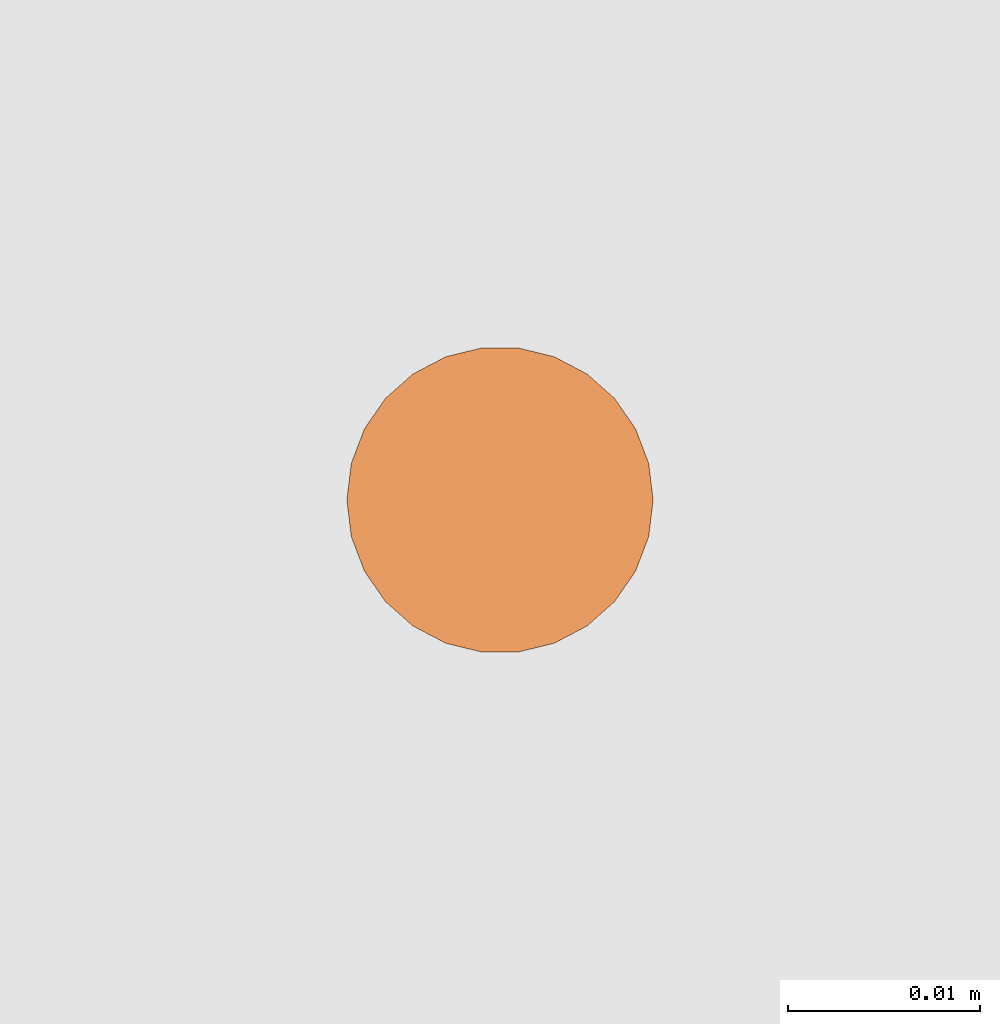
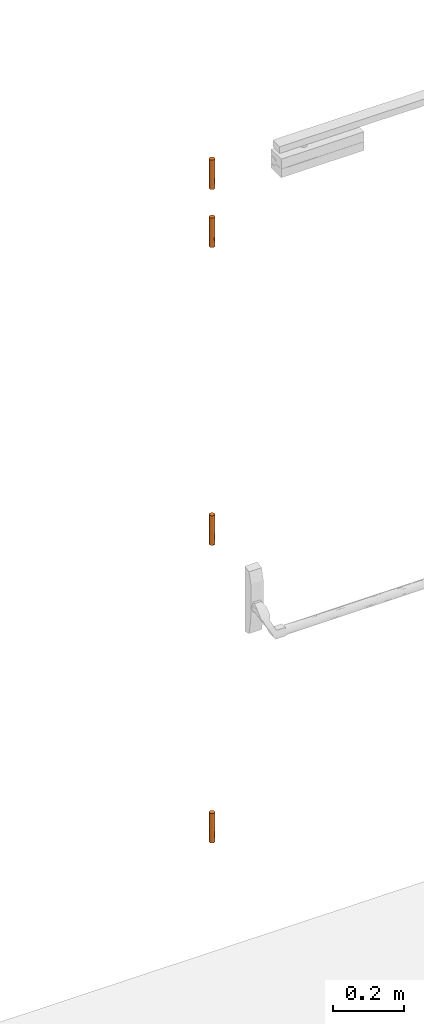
# One storey, part 213 of 230: 1 proxy.
"""IFC4X3_ADD2 building model written with IfcOpenShell, lengths in millimetres."""

from ifc_helpers import new_model, si_unit, direction, frame, frame_2d, origin_with_axes, place, context, subcontext, project, spatial, circle, extrude, source, transform, mapped, type_object, type_shapes, element, save


model = new_model("IFC4X3_ADD2")

# Units and contexts
model_context = context("Model", 3, precision=1e-05, world=origin_with_axes(), true_north=direction((0.0, 1.0)))
body_context = subcontext(model_context, "Body", "Model", "MODEL_VIEW")
ifc_project = project(units=[si_unit("LENGTHUNIT", "METRE", prefix="MILLI"), si_unit("AREAUNIT", "SQUARE_METRE"), si_unit("VOLUMEUNIT", "CUBIC_METRE"), si_unit("PLANEANGLEUNIT", "RADIAN"), si_unit("TIMEUNIT", "SECOND"), si_unit("MASSUNIT", "GRAM")], contexts=[model_context])

# Site, building, storey
site_placement = place(None, origin_with_axes())
site = spatial("IfcSite", under=ifc_project, at=site_placement, Name="Site", CompositionType="ELEMENT")
building_placement = place(site_placement, origin_with_axes())
building = spatial("IfcBuilding", under=site, at=building_placement, Name="IFC Building Story")
storey_placement = place(building_placement, origin_with_axes())
storey = spatial("IfcBuildingStorey", under=building, at=storey_placement, Name="ETAGE 00 (0)", Elevation=0.0)

# Proxy
building_element_proxy_type = type_object("IfcBuildingElementProxyType", Name="ASSA ABLOY BE_Architectural and Accessory Hardware_TONIC LINE_Litto ASSA ABLOY_TL1102LSS 3D_4XTL1102LSS", PredefinedType="NOTDEFINED")
shared_shape = source(origin_with_axes(), body_context, "Body", "SweptSolid", [
    extrude(circle(Radius=7.97647700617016, at=frame_2d((0.0, 5.95523630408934e-12), x_axis=(1.0, 0.0))), frame((0.0, -2550.49999999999, 10.900000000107), z_axis=(0.0, 1.0, 0.0), x_axis=(1.0, 0.0, 0.0)), (0.0, 0.0, 1.0), 100.0),
    extrude(circle(Radius=7.97647700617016, at=frame_2d((0.0, 5.95523630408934e-12), x_axis=(1.0, 0.0))), frame((0.0, -2350.49999999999, 10.9000000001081), z_axis=(0.0, 1.0, 0.0), x_axis=(1.0, 0.0, 0.0)), (0.0, 0.0, 1.0), 99.99999999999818),
    extrude(circle(Radius=7.97647700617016, at=frame_2d((0.0, 5.95523630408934e-12), x_axis=(1.0, 0.0))), frame((0.0, -1325.24999999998, 10.9000000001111), z_axis=(0.0, 1.0, 0.0), x_axis=(1.0, 0.0, 0.0)), (0.0, 0.0, 1.0), 99.99999999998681),
    extrude(circle(Radius=7.97647700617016, at=frame_2d((0.0, 5.95523630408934e-12), x_axis=(1.0, 0.0))), frame((0.0, -300.0, 10.9000000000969), z_axis=(0.0, 1.0, 0.0), x_axis=(1.0, 0.0, 0.0)), (0.0, 0.0, 1.0), 100.0),
])
type_shapes(building_element_proxy_type, [shared_shape])
proxy_placement = place(storey_placement, frame((29067.0894449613, 18212.4500013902, 0.0), z_axis=(0.0, 1.0, 0.0), x_axis=(1.0, 0.0, 0.0)))
element("IfcBuildingElementProxy", 1, at=proxy_placement, inside=storey, type_object=building_element_proxy_type, Name="ASSA ABLOY BE_Architectural and Accessory Hardware_TONIC LINE_Litto ASSA ABLOY_TL1102LSS 3D:4XTL1102LSS", ObjectType="ASSA ABLOY BE_Architectural and Accessory Hardware_TONIC LINE_Litto ASSA ABLOY_TL1102LSS 3D:4XTL1102LSS", context=body_context, shape_type="MappedRepresentation", body=[
    mapped(shared_shape, transform((0.0, 0.0, 0.0))),
])

save(model, "model.ifc")
